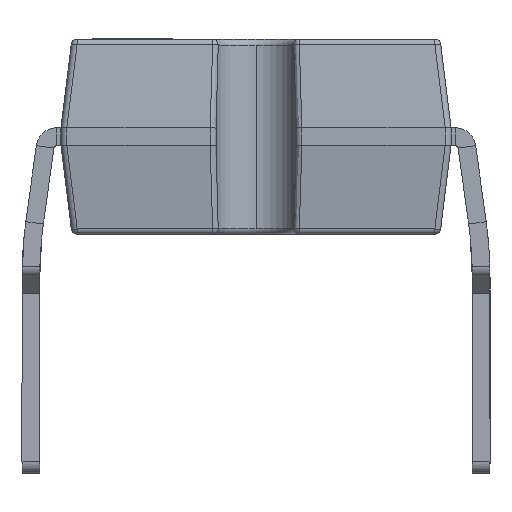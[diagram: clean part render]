
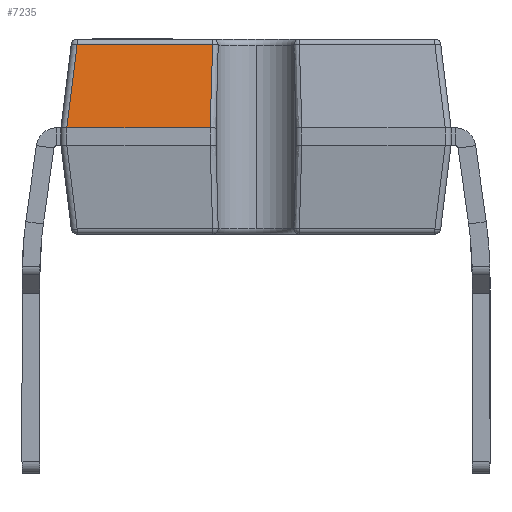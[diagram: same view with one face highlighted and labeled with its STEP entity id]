
A CAD part, left-side view. The second image highlights one B-rep face of the part: STEP entity #7235.
In plain terms, the highlighted planar face has unit normal (-0.993, 0, 0.122).
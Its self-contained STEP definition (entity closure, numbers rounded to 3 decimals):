
#801 = DIRECTION ( 'NONE',  ( -0.121, 0.121, -0.985 ) ) ;
#1858 = CARTESIAN_POINT ( 'NONE',  ( -9.441, 0.769, 2.283 ) ) ;
#2033 = CARTESIAN_POINT ( 'NONE',  ( -9.327, 0.733, 3.212 ) ) ;
#2496 = ORIENTED_EDGE ( 'NONE', *, *, #19935, .T. ) ;
#3019 = LINE ( 'NONE', #28019, #18270 ) ;
#3767 =( BOUNDED_CURVE ( )  B_SPLINE_CURVE ( 3, ( #32951, #1858, #21138, #2033 ),
 .UNSPECIFIED., .F., .T. ) 
 B_SPLINE_CURVE_WITH_KNOTS ( ( 4, 4 ),
 ( 4.84, 5.068 ),
 .UNSPECIFIED. ) 
 CURVE ( )  GEOMETRIC_REPRESENTATION_ITEM ( )  RATIONAL_B_SPLINE_CURVE ( ( 1., 0.996, 0.996, 1. ) ) 
 REPRESENTATION_ITEM ( '' )  );
#5623 = CARTESIAN_POINT ( 'NONE',  ( -9.5, 3.201, 1.8 ) ) ;
#6302 = VERTEX_POINT ( 'NONE', #23979 ) ;
#6402 = CARTESIAN_POINT ( 'NONE',  ( -9.272, 2.972, 3.66 ) ) ;
#6437 = VECTOR ( 'NONE', #801, 1000. ) ;
#6580 = ORIENTED_EDGE ( 'NONE', *, *, #32581, .F. ) ;
#6585 = ORIENTED_EDGE ( 'NONE', *, *, #10274, .T. ) ;
#7235 = ADVANCED_FACE ( 'NONE', ( #7305 ), #20997, .F. ) ;
#7305 = FACE_OUTER_BOUND ( 'NONE', #12244, .T. ) ;
#8050 = DIRECTION ( 'NONE',  ( 0., -1., 0. ) ) ;
#8952 = CARTESIAN_POINT ( 'NONE',  ( -9.5, 3.2, 1.8 ) ) ;
#10274 = EDGE_CURVE ( 'NONE', #6302, #19286, #10624, .T. ) ;
#10320 = CARTESIAN_POINT ( 'NONE',  ( -9.327, 3.027, 3.212 ) ) ;
#10388 = EDGE_CURVE ( 'NONE', #23271, #29074, #11547, .T. ) ;
#10624 =( BOUNDED_CURVE ( )  B_SPLINE_CURVE ( 3, ( #5623, #25815, #8952, #34473 ),
 .UNSPECIFIED., .F., .T. ) 
 B_SPLINE_CURVE_WITH_KNOTS ( ( 4, 4 ),
 ( 6.276, 6.283 ),
 .UNSPECIFIED. ) 
 CURVE ( )  GEOMETRIC_REPRESENTATION_ITEM ( )  RATIONAL_B_SPLINE_CURVE ( ( 1., 1., 1., 1. ) ) 
 REPRESENTATION_ITEM ( '' )  );
#11547 = LINE ( 'NONE', #22524, #34054 ) ;
#11691 = VERTEX_POINT ( 'NONE', #27666 ) ;
#12244 = EDGE_LOOP ( 'NONE', ( #6580, #33048, #26071, #2496, #6585 ) ) ;
#12288 = LINE ( 'NONE', #6402, #6437 ) ;
#13996 = DIRECTION ( 'NONE',  ( 0., 1., 0. ) ) ;
#16289 = CARTESIAN_POINT ( 'NONE',  ( -9.327, 0.733, 3.212 ) ) ;
#18270 = VECTOR ( 'NONE', #13996, 1000. ) ;
#19128 = CARTESIAN_POINT ( 'NONE',  ( -9.5, 3.2, 1.8 ) ) ;
#19286 = VERTEX_POINT ( 'NONE', #19128 ) ;
#19893 = DIRECTION ( 'NONE',  ( 0., 1., 0. ) ) ;
#19935 = EDGE_CURVE ( 'NONE', #29074, #6302, #12288, .T. ) ;
#20997 = PLANE ( 'NONE',  #26902 ) ;
#21138 = CARTESIAN_POINT ( 'NONE',  ( -9.383, 0.754, 2.756 ) ) ;
#22524 = CARTESIAN_POINT ( 'NONE',  ( -9.327, 3.116, 3.212 ) ) ;
#23271 = VERTEX_POINT ( 'NONE', #16289 ) ;
#23979 = CARTESIAN_POINT ( 'NONE',  ( -9.5, 3.201, 1.8 ) ) ;
#24191 = CARTESIAN_POINT ( 'NONE',  ( -9.316, 0., 3.3 ) ) ;
#25815 = CARTESIAN_POINT ( 'NONE',  ( -9.5, 3.2, 1.8 ) ) ;
#26071 = ORIENTED_EDGE ( 'NONE', *, *, #10388, .T. ) ;
#26902 = AXIS2_PLACEMENT_3D ( 'NONE', #24191, #33368, #8050 ) ;
#27666 = CARTESIAN_POINT ( 'NONE',  ( -9.5, 0.776, 1.8 ) ) ;
#28019 = CARTESIAN_POINT ( 'NONE',  ( -9.5, -3.3, 1.8 ) ) ;
#29074 = VERTEX_POINT ( 'NONE', #10320 ) ;
#32581 = EDGE_CURVE ( 'NONE', #11691, #19286, #3019, .T. ) ;
#32951 = CARTESIAN_POINT ( 'NONE',  ( -9.5, 0.776, 1.8 ) ) ;
#33048 = ORIENTED_EDGE ( 'NONE', *, *, #33099, .T. ) ;
#33099 = EDGE_CURVE ( 'NONE', #11691, #23271, #3767, .T. ) ;
#33368 = DIRECTION ( 'NONE',  ( 0.993, 0., -0.122 ) ) ;
#34054 = VECTOR ( 'NONE', #19893, 1000. ) ;
#34473 = CARTESIAN_POINT ( 'NONE',  ( -9.5, 3.2, 1.8 ) ) ;
